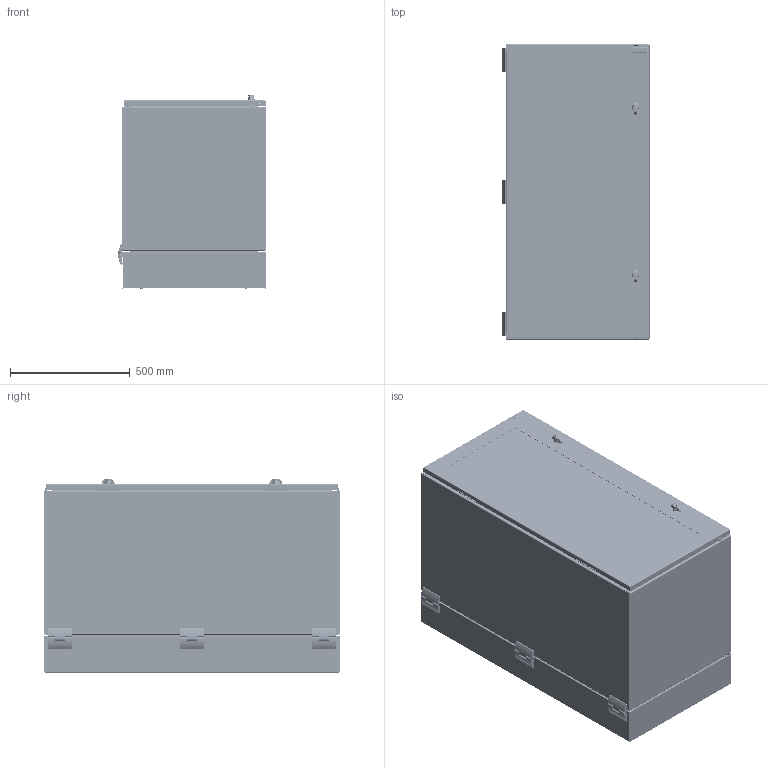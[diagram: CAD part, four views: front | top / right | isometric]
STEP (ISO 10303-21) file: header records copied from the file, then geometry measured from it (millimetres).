
FILE_DESCRIPTION (( 'STEP AP203' ), '1' );
FILE_NAME ('pthw482430g2.STEP', '2011-12-07T16:00:29', ( 'Hoffman User' ), ( 'Hoffman Enclosures' ), 'SwSTEP 2.0', 'SolidWorks 2010', '' );
FILE_SCHEMA (( 'CONFIG_CONTROL_DESIGN' ));
Length unit declared in the file: millimetre
Products named in the file (50): 89072125_87931339; pthw482430g2; 89078335; 89078334; 89060190; 89060191; 89071699_Installed Config; 89081289; 89081288; 89081287; 89080408; 89074728_89060267; 89074726_Compressed wdw gasket; 89074724_89060269; 60127101_60127101; 60100041_60100041; 87931527_87931527; 87931368_SLEEVE; 99401225; 89074727; 89074725_Compressed; 89071927_FOR 16GA; 99407418; 87794349_87794349; 87556213; 87556214; 87922656; 87928600; 64138001; 89066975; 89066980; 89066979_WITH STAKE; 89066976; 89066978; 89066977; 87540581; 87790199; 60127214_601272214; 87790201_87790201; 60127135_Installed postion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
Assembly tree (153 placements, depth 5):
  pthw482430g2
    89078335
      89071699_Installed Config  x7
      89078334
      89060190  x2
      60100041_60100041
        87931527_87931527
        87931368_SLEEVE
      89060191  x2
      89074727
    60127214_601272214  x2
      60127135_Installed postion
      60127199_60127199
      87790201_87790201
      56906712_56906712
    89066980  x3
      87540581
      89066976
      89066979_WITH STAKE
    89066978  x3
      87540581
      89066977
    89072125_87931339  x2
    89074460_89074460  x3
    89060214  x3
    89060213  x3
    89060212  x3
    89070550  x3
      89056327
      89070549
    89066975  x3
    89060606_89060606  x2
    87790199  x2
    89074728_89060267
      99407418  x2
      87556213  x4
      87922656  x16
      89071927_FOR 16GA  x2
      87556214  x2
      89074726_Compressed wdw gasket
        99401225  x16
        60127101_60127101  x2
        89074727
        89074725_Compressed
        89074724_89060269
        60100041_60100041
          87931527_87931527
          87931368_SLEEVE
      87928600
      87794349_87794349
      64138001  x2
    89081289
      99401225  x28
      89080408  x2
      60100041_60100041  x2
        87931527_87931527
        87931368_SLEEVE
      89081288
      89081287
Bounding box: 616 x 1233 x 809.17 mm (x, y, z)
Volume: 12271657.7 mm3; surface area: 11219784 mm2
Topology: 163 solids, 183 shells, 9839 faces, 24364 edges, 14975 vertices
Faces by surface type: plane 4283, cylinder 2904, bspline 1269, cone 821, torus 414, sphere 148
Entity records: 172756 total; most frequent: CARTESIAN_POINT 76302, ORIENTED_EDGE 19134, DIRECTION 17247, EDGE_CURVE 9567, AXIS2_PLACEMENT_3D 6140, VERTEX_POINT 5938, LINE 4967, VECTOR 4967
